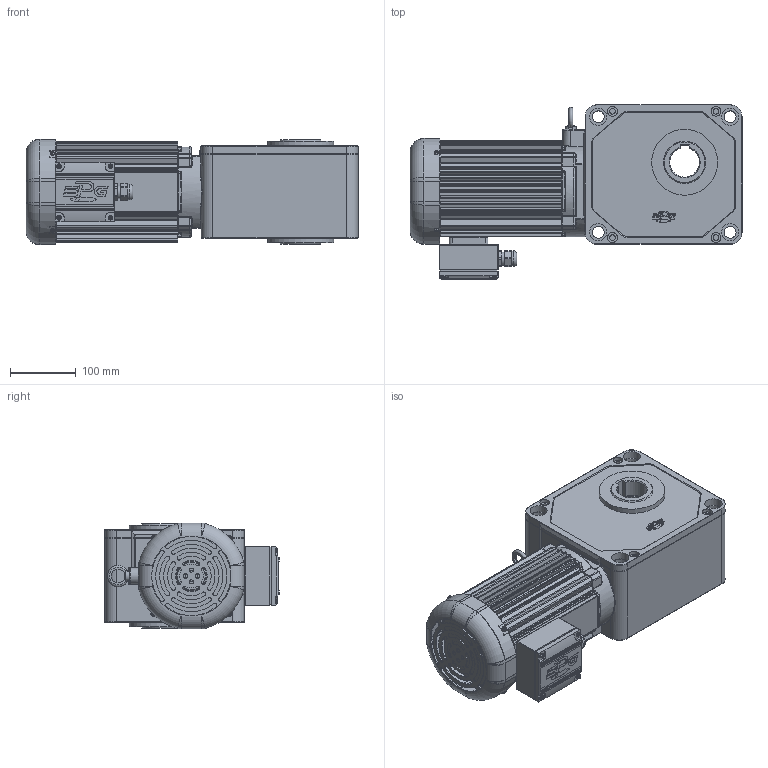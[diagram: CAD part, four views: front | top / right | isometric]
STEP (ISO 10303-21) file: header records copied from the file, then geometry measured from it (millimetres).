
FILE_DESCRIPTION(/* description */ (''),/* implementation_level */ '2;1');
FILE_NAME(/* name */ 'Z:\동력 3D 파일\PCH45_0.75kW_3D.stp',/* time_stamp */ '2021-11-09T09:55:29+09:00',/* author */ ('jaebok'),/* organization */ (''),/* preprocessor_version */ 'ST-DEVELOPER v18.1',/* originating_system */ 'Autodesk Inventor 2022',/* authorisation */ '');
FILE_SCHEMA (('AUTOMOTIVE_DESIGN { 1 0 10303 214 3 1 1 }'));
Products named in the file (1): 부품29
Bounding box: 503.5 x 264 x 160.4 mm (x, y, z)
Volume: 4268248.2 mm3; surface area: 963622.3 mm2
Topology: 1 solids, 26 shells, 2195 faces, 5587 edges, 3470 vertices
Faces by surface type: plane 888, cylinder 801, bspline 220, torus 175, cone 63, sphere 48
Full cylindrical faces by diameter (mm): 3.25 x1, 3.5 x4, 3.6 x4, 4 x22, 5 x13, 6 x8, 7 x13, 8 x7, 8.5 x4, 10 x1, 12.5 x1, 15 x5, 18 x5, 20 x2, 20.6 x1, 21 x1, 23.6 x1, 25 x1, 26 x12, 30 x1, 36 x1, 40 x1, 44 x1, 64 x2, 65 x2, 73 x1, 85 x2, 90 x2, 98 x2, 100 x2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
Entity records: 75086 total; most frequent: CARTESIAN_POINT 20087, DIRECTION 11322, ORIENTED_EDGE 11054, EDGE_CURVE 5527, AXIS2_PLACEMENT_3D 4383, VERTEX_POINT 3470, LINE 2556, VECTOR 2556
